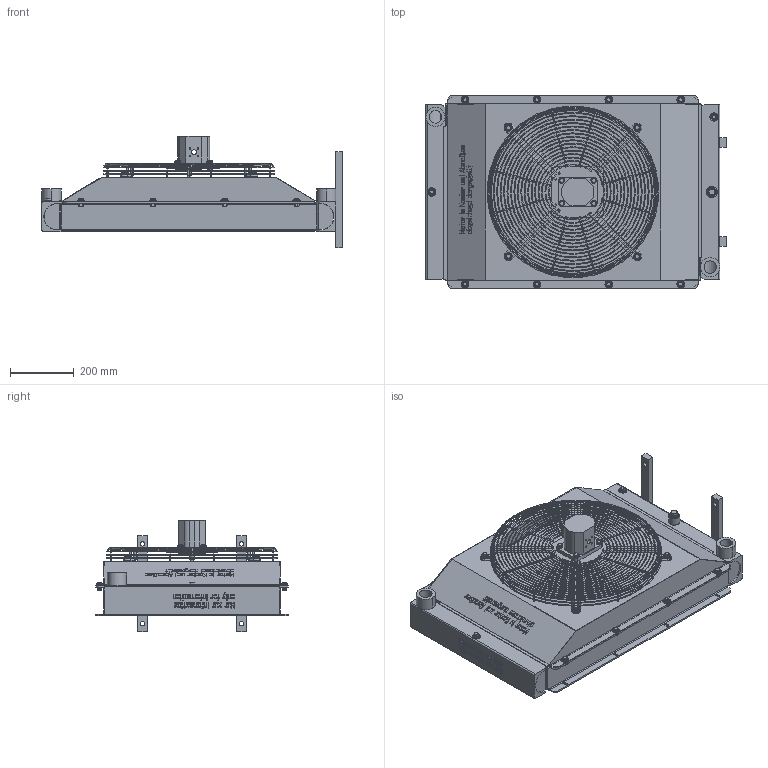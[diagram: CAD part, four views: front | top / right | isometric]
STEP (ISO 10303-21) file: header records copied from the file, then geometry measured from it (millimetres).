
FILE_DESCRIPTION((' '),'1');
FILE_NAME('5207_204_0000.step','2007-09-28 T',(' '),(' '),'STEP Interface v1.0 by CT CoreTechnologie','3D_Evolution v1.0 by CT CoreTechnologie',' ');
FILE_SCHEMA(('AUTOMOTIVE_DESIGN_CC2 { 1 2 10303 214 -1 1 5 2 }'));
Length unit declared in the file: millimetre
Products named in the file (97): 5207_204_0000; 603505; 8402_405_00001; 8402_405_00002; 8402_405_00003; 8402_405_00004; 8402_405_00005; 8402_405_00006; 8402_405_00007; 8402_405_00008; 8402_405_00009; 8402_405_000010; 8402_405_000011; 8402_405_000012; 8402_405_000013; 8402_405_000014; 8402_405_000015; 8402_405_000016; 8402_405_000017; 8402_405_000018; 8402_405_000019; 8402_405_000020; 8402_405_000021; 8402_405_000022; 8402_405_000023; 8402_405_000024; 8402_405_000025; 8402_405_000026; 8402_405_000027; 8402_405_000028; 8402_405_000029; 8402_405_000030; 8402_405_000031; 8402_405_000032; 8402_405_000033; 8402_405_000034; 8402_405_000035; Sechskantschraube_ISO_4017-M8x30-8_8-A3B; 603804; 8407_470_00441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
Assembly tree (147 placements, depth 4):
  5207_204_0000
    603505  x20
    8402_405_00001
    8402_405_00002
    8402_405_00003
    8402_405_00004
    8402_405_00005
    8402_405_00006
    8402_405_00007
    8402_405_00008
    8402_405_00009
    8402_405_000010
    8402_405_000011
    8402_405_000012
    8402_405_000013
    8402_405_000014
    8402_405_000015
    8402_405_000016
    8402_405_000017
    8402_405_000018
    8402_405_000019
    8402_405_000020
    8402_405_000021
    8402_405_000022
    8402_405_000023
    8402_405_000024
    8402_405_000025
    8402_405_000026
    8402_405_000027
    8402_405_000028
    8402_405_000029
    8402_405_000030
    8402_405_000031
    8402_405_000032
    8402_405_000033
    8402_405_000034
    8402_405_000035
    Sechskantschraube_ISO_4017-M8x30-8_8-A3B  x4
    603804  x8
    8407_470_00441
    8407_470_00442
    6004041
    6004042
    6004043
    6004044
    5205_104_00101
    5205_104_00102
    Sechskantschraube_ISO_4017-M8x25-8_8-A3B1
    Sechskantschraube_ISO_4017-M8x25-8_8-A3B2
    Sechskantschraube_ISO_4017-M8x25-8_8-A3B3
    Sechskantschraube_ISO_4017-M8x25-8_8-A3B4
    6038281
    6038282
    6038283
    6038284
    6030041
    6030042
    6030043
    6030044
    6030045
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Bounding box: 940.5 x 602 x 348.6 mm (x, y, z)
Volume: 46207050.2 mm3; surface area: 3430602.8 mm2
Topology: 142 solids, 142 shells, 3163 faces, 7649 edges, 4908 vertices
Faces by surface type: plane 1719, cylinder 619, torus 298, cone 290, bspline 237
Entity records: 112759 total; most frequent: CARTESIAN_POINT 26398, ORIENTED_EDGE 12918, DIRECTION 12469, EDGE_CURVE 6459, AXIS2_PLACEMENT_3D 4179, VERTEX_POINT 4150, VECTOR 4111, LINE 4111
